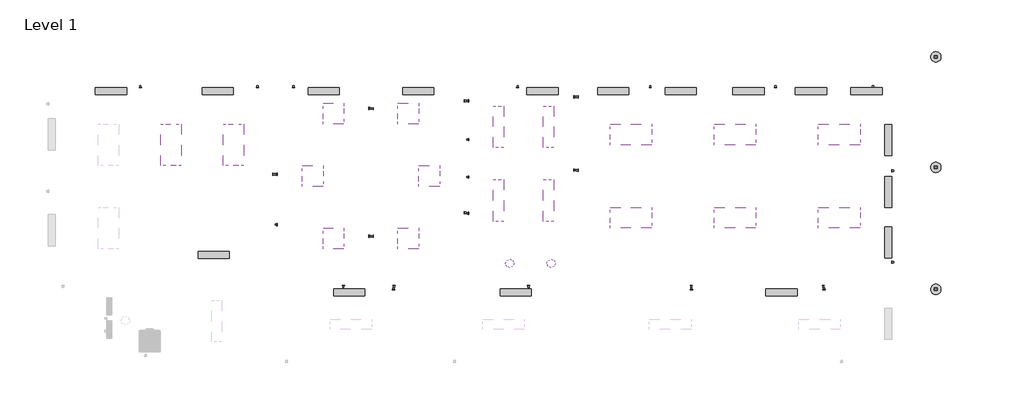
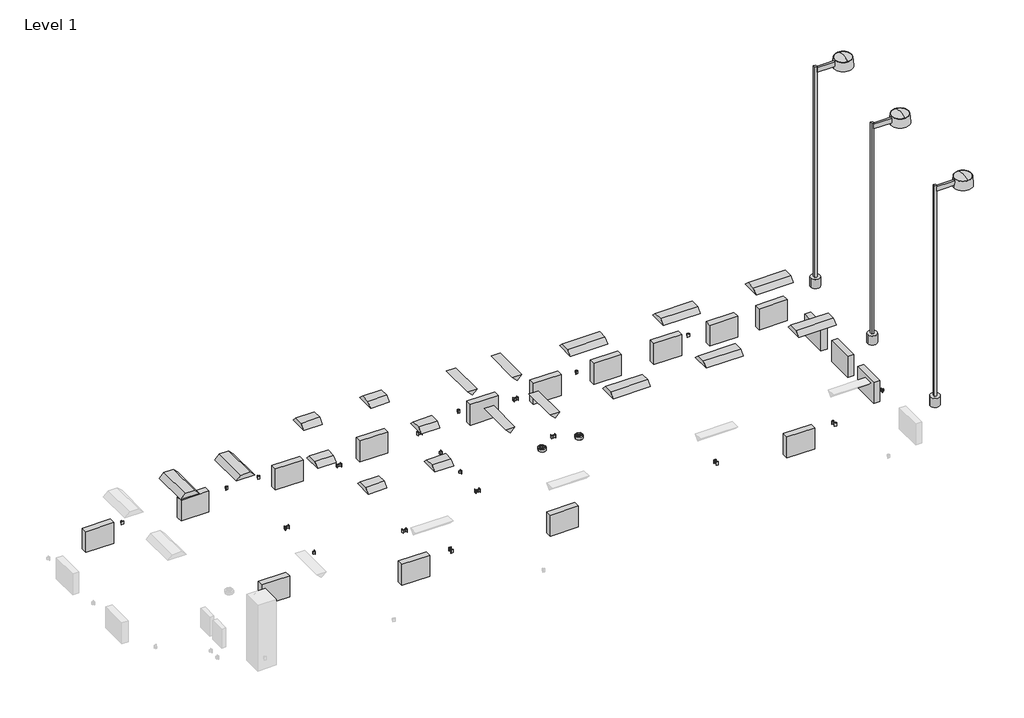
# One storey, part 2 of 2: 52 proxies, 23 light fixtures.
"""IFC4 building model written with IfcOpenShell, lengths in millimetres."""

from ifc_helpers import new_model, si_unit, origin, place, context, project, spatial, transform, mapped, element, save
from components import duplex_receptacle_standard_10251bba, heater_standard_f97a0de0, ceiling_light_flat_round_60w_277v_a3c1fe64, plain_recessed_lighting_fixture_1x4_277_73690371, plain_recessed_lighting_fixture_2x2_277_2107ce2d, plain_recessed_lighting_fixture_2x4_277_d3d5fc87, street_light_standard_400w_halogen_277v_63d2c179

model = new_model("IFC4")

# Units and contexts
model_context = context("Model", 3, world=origin())
ifc_project = project(units=[si_unit("LENGTHUNIT", "METRE", prefix="MILLI")], contexts=[model_context])

# Site, building, storey
site = spatial("IfcSite", under=ifc_project)
building = spatial("IfcBuilding", under=site)
storey = spatial("IfcBuildingStorey", under=building, Name="Level 1", Elevation=0.0)

# Proxies
placement = place(None, origin())
duplex_receptacle_standard_shape = duplex_receptacle_standard_10251bba(model_context)
element("IfcBuildingElementProxy", 1, Name="Duplex Receptacle : Standard", ObjectType="Duplex Receptacle : Standard", at=placement, inside=storey, context=model_context, shape_type="MappedRepresentation", body=[
    mapped(duplex_receptacle_standard_shape, transform((-35.6380103, 2648.1174507, 457.2), x_axis=(0.0, 1.0, 0.0), y_axis=(0.0, 0.0, 1.0), z_axis=(1.0, 0.0, 0.0))),
])
element("IfcBuildingElementProxy", 2, Name="Duplex Receptacle : Standard", ObjectType="Duplex Receptacle : Standard", at=placement, inside=storey, context=model_context, shape_type="MappedRepresentation", body=[
    mapped(duplex_receptacle_standard_shape, transform((-35.6380103, 3713.8918475, 457.2), x_axis=(0.0, 1.0, 0.0), y_axis=(0.0, 0.0, 1.0), z_axis=(1.0, 0.0, 0.0))),
])
element("IfcBuildingElementProxy", 3, Name="Duplex Receptacle : Standard", ObjectType="Duplex Receptacle : Standard", at=placement, inside=storey, context=model_context, shape_type="MappedRepresentation", body=[
    mapped(duplex_receptacle_standard_shape, transform((-35.6380103, 4811.7196097, 457.2), x_axis=(0.0, 1.0, 0.0), y_axis=(0.0, 0.0, 1.0), z_axis=(1.0, 0.0, 0.0))),
])
element("IfcBuildingElementProxy", 4, Name="Duplex Receptacle : Standard", ObjectType="Duplex Receptacle : Standard", at=placement, inside=storey, context=model_context, shape_type="MappedRepresentation", body=[
    mapped(duplex_receptacle_standard_shape, transform((-35.6380103, 5949.6140785, 457.2), x_axis=(0.0, 1.0, 0.0), y_axis=(0.0, 0.0, 1.0), z_axis=(1.0, 0.0, 0.0))),
])
element("IfcBuildingElementProxy", 5, Name="Duplex Receptacle : Standard", ObjectType="Duplex Receptacle : Standard", at=placement, inside=storey, context=model_context, shape_type="MappedRepresentation", body=[
    mapped(duplex_receptacle_standard_shape, transform((3054.9541807, 6058.3078836, 457.2), x_axis=(0.0, -1.0, 0.0), y_axis=(0.0, 0.0, 1.0), z_axis=(-1.0, 0.0, 0.0))),
])
element("IfcBuildingElementProxy", 6, Name="Duplex Receptacle : Standard", ObjectType="Duplex Receptacle : Standard", at=placement, inside=storey, context=model_context, shape_type="MappedRepresentation", body=[
    mapped(duplex_receptacle_standard_shape, transform((3054.9541807, 3918.7457486, 457.2), x_axis=(0.0, -1.0, 0.0), y_axis=(0.0, 0.0, 1.0), z_axis=(-1.0, 0.0, 0.0))),
])
element("IfcBuildingElementProxy", 7, Name="Duplex Receptacle : Standard", ObjectType="Duplex Receptacle : Standard", at=placement, inside=storey, context=model_context, shape_type="MappedRepresentation", body=[
    mapped(duplex_receptacle_standard_shape, transform((1404.1361978, 6330.7167452, 457.2), x_axis=(1.0, 0.0, 0.0), y_axis=(0.0, 0.0, 1.0), z_axis=(0.0, -1.0, 0.0))),
])
element("IfcBuildingElementProxy", 8, Name="Duplex Receptacle : Standard", ObjectType="Duplex Receptacle : Standard", at=placement, inside=storey, context=model_context, shape_type="MappedRepresentation", body=[
    mapped(duplex_receptacle_standard_shape, transform((-9637.0519321, 6330.7167452, 457.2), x_axis=(1.0, 0.0, 0.0), y_axis=(0.0, 0.0, 1.0), z_axis=(0.0, -1.0, 0.0))),
])
element("IfcBuildingElementProxy", 9, Name="Duplex Receptacle : Standard", ObjectType="Duplex Receptacle : Standard", at=placement, inside=storey, context=model_context, shape_type="MappedRepresentation", body=[
    mapped(duplex_receptacle_standard_shape, transform((-6212.0214597, 6330.7167452, 457.2), x_axis=(1.0, 0.0, 0.0), y_axis=(0.0, 0.0, 1.0), z_axis=(0.0, -1.0, 0.0))),
])
element("IfcBuildingElementProxy", 10, Name="Duplex Receptacle : Standard", ObjectType="Duplex Receptacle : Standard", at=placement, inside=storey, context=model_context, shape_type="MappedRepresentation", body=[
    mapped(duplex_receptacle_standard_shape, transform((-5761.7329716, 3793.1487614, 457.2), x_axis=(0.0, -1.0, 0.0), y_axis=(0.0, 0.0, 1.0), z_axis=(-1.0, 0.0, 0.0))),
])
element("IfcBuildingElementProxy", 11, Name="Duplex Receptacle : Standard", ObjectType="Duplex Receptacle : Standard", at=placement, inside=storey, context=model_context, shape_type="MappedRepresentation", body=[
    mapped(duplex_receptacle_standard_shape, transform((-3696.8781677, 539.3362982, 457.2), x_axis=(-1.0, 0.0, 0.0), y_axis=(0.0, 0.0, 1.0), z_axis=(0.0, 1.0, 0.0))),
])
element("IfcBuildingElementProxy", 12, Name="Duplex Receptacle : Standard", ObjectType="Duplex Receptacle : Standard", at=placement, inside=storey, context=model_context, shape_type="MappedRepresentation", body=[
    mapped(duplex_receptacle_standard_shape, transform((-2943.0314516, 1977.435622, 457.2), x_axis=(0.0, -1.0, 0.0), y_axis=(0.0, 0.0, 1.0), z_axis=(-1.0, 0.0, 0.0))),
])
element("IfcBuildingElementProxy", 13, Name="Duplex Receptacle : Standard", ObjectType="Duplex Receptacle : Standard", at=placement, inside=storey, context=model_context, shape_type="MappedRepresentation", body=[
    mapped(duplex_receptacle_standard_shape, transform((-2943.0314516, 5727.6793643, 457.2), x_axis=(0.0, -1.0, 0.0), y_axis=(0.0, 0.0, 1.0), z_axis=(-1.0, 0.0, 0.0))),
])
element("IfcBuildingElementProxy", 14, Name="Duplex Receptacle : Standard", ObjectType="Duplex Receptacle : Standard", at=placement, inside=storey, context=model_context, shape_type="MappedRepresentation", body=[
    mapped(duplex_receptacle_standard_shape, transform((-5155.3062897, 6330.7167452, 457.2), x_axis=(1.0, 0.0, 0.0), y_axis=(0.0, 0.0, 1.0), z_axis=(0.0, -1.0, 0.0))),
])
element("IfcBuildingElementProxy", 15, Name="Duplex Receptacle : Standard", ObjectType="Duplex Receptacle : Standard", at=placement, inside=storey, context=model_context, shape_type="MappedRepresentation", body=[
    mapped(duplex_receptacle_standard_shape, transform((-5637.9079716, 3796.4641038, 457.2), x_axis=(0.0, 1.0, 0.0), y_axis=(0.0, 0.0, 1.0), z_axis=(1.0, 0.0, 0.0))),
])
element("IfcBuildingElementProxy", 16, Name="Duplex Receptacle : Standard", ObjectType="Duplex Receptacle : Standard", at=placement, inside=storey, context=model_context, shape_type="MappedRepresentation", body=[
    mapped(duplex_receptacle_standard_shape, transform((-5637.9079716, 2322.0092992, 457.2), x_axis=(0.0, 1.0, 0.0), y_axis=(0.0, 0.0, 1.0), z_axis=(1.0, 0.0, 0.0))),
])
element("IfcBuildingElementProxy", 17, Name="Duplex Receptacle : Standard", ObjectType="Duplex Receptacle : Standard", at=placement, inside=storey, context=model_context, shape_type="MappedRepresentation", body=[
    mapped(duplex_receptacle_standard_shape, transform((-2819.2064516, 5717.2271799, 457.2), x_axis=(0.0, 1.0, 0.0), y_axis=(0.0, 0.0, 1.0), z_axis=(1.0, 0.0, 0.0))),
])
element("IfcBuildingElementProxy", 18, Name="Duplex Receptacle : Standard", ObjectType="Duplex Receptacle : Standard", at=placement, inside=storey, context=model_context, shape_type="MappedRepresentation", body=[
    mapped(duplex_receptacle_standard_shape, transform((-2819.2064516, 1974.996779, 457.2), x_axis=(0.0, 1.0, 0.0), y_axis=(0.0, 0.0, 1.0), z_axis=(1.0, 0.0, 0.0))),
])
element("IfcBuildingElementProxy", 19, Name="Duplex Receptacle : Standard", ObjectType="Duplex Receptacle : Standard", at=placement, inside=storey, context=model_context, shape_type="MappedRepresentation", body=[
    mapped(duplex_receptacle_standard_shape, transform((-2217.8940832, 539.3362982, 457.2), x_axis=(-1.0, 0.0, 0.0), y_axis=(0.0, 0.0, 1.0), z_axis=(0.0, 1.0, 0.0))),
])
element("IfcBuildingElementProxy", 20, Name="Duplex Receptacle : Standard", ObjectType="Duplex Receptacle : Standard", at=placement, inside=storey, context=model_context, shape_type="MappedRepresentation", body=[
    mapped(duplex_receptacle_standard_shape, transform((-159.4630103, 5949.6140785, 457.2), x_axis=(0.0, -1.0, 0.0), y_axis=(0.0, 0.0, 1.0), z_axis=(-1.0, 0.0, 0.0))),
])
element("IfcBuildingElementProxy", 21, Name="Duplex Receptacle : Standard", ObjectType="Duplex Receptacle : Standard", at=placement, inside=storey, context=model_context, shape_type="MappedRepresentation", body=[
    mapped(duplex_receptacle_standard_shape, transform((-159.4630103, 2664.1441333, 457.2), x_axis=(0.0, -1.0, 0.0), y_axis=(0.0, 0.0, 1.0), z_axis=(-1.0, 0.0, 0.0))),
])
element("IfcBuildingElementProxy", 22, Name="Duplex Receptacle : Standard", ObjectType="Duplex Receptacle : Standard", at=placement, inside=storey, context=model_context, shape_type="MappedRepresentation", body=[
    mapped(duplex_receptacle_standard_shape, transform((3178.7791807, 3910.7324072, 457.2), x_axis=(0.0, 1.0, 0.0), y_axis=(0.0, 0.0, 1.0), z_axis=(1.0, 0.0, 0.0))),
])
element("IfcBuildingElementProxy", 23, Name="Duplex Receptacle : Standard", ObjectType="Duplex Receptacle : Standard", at=placement, inside=storey, context=model_context, shape_type="MappedRepresentation", body=[
    mapped(duplex_receptacle_standard_shape, transform((3178.7791807, 6058.3078836, 457.2), x_axis=(0.0, 1.0, 0.0), y_axis=(0.0, 0.0, 1.0), z_axis=(1.0, 0.0, 0.0))),
])
element("IfcBuildingElementProxy", 24, Name="Duplex Receptacle : Standard", ObjectType="Duplex Receptacle : Standard", at=placement, inside=storey, context=model_context, shape_type="MappedRepresentation", body=[
    mapped(duplex_receptacle_standard_shape, transform((5282.5934014, 6330.7167452, 457.2), x_axis=(1.0, 0.0, 0.0), y_axis=(0.0, 0.0, 1.0), z_axis=(0.0, -1.0, 0.0))),
])
element("IfcBuildingElementProxy", 25, Name="Duplex Receptacle : Standard", ObjectType="Duplex Receptacle : Standard", at=placement, inside=storey, context=model_context, shape_type="MappedRepresentation", body=[
    mapped(duplex_receptacle_standard_shape, transform((8952.7037304, 6330.7167452, 457.2), x_axis=(1.0, 0.0, 0.0), y_axis=(0.0, 0.0, 1.0), z_axis=(0.0, -1.0, 0.0))),
])
element("IfcBuildingElementProxy", 26, Name="Duplex Receptacle : Standard", ObjectType="Duplex Receptacle : Standard", at=placement, inside=storey, context=model_context, shape_type="MappedRepresentation", body=[
    mapped(duplex_receptacle_standard_shape, transform((11805.4532437, 6330.7167452, 457.2), x_axis=(1.0, 0.0, 0.0), y_axis=(0.0, 0.0, 1.0), z_axis=(0.0, -1.0, 0.0))),
])
element("IfcBuildingElementProxy", 27, Name="Duplex Receptacle : Standard", ObjectType="Duplex Receptacle : Standard", at=placement, inside=storey, context=model_context, shape_type="MappedRepresentation", body=[
    mapped(duplex_receptacle_standard_shape, transform((12355.5534774, 3898.1986981, 457.2), x_axis=(0.0, -1.0, 0.0), y_axis=(0.0, 0.0, 1.0), z_axis=(-1.0, 0.0, 0.0))),
])
element("IfcBuildingElementProxy", 28, Name="Duplex Receptacle : Standard", ObjectType="Duplex Receptacle : Standard", at=placement, inside=storey, context=model_context, shape_type="MappedRepresentation", body=[
    mapped(duplex_receptacle_standard_shape, transform((12355.5534774, 1221.742694, 457.2), x_axis=(0.0, -1.0, 0.0), y_axis=(0.0, 0.0, 1.0), z_axis=(-1.0, 0.0, 0.0))),
])
element("IfcBuildingElementProxy", 29, Name="Duplex Receptacle : Standard", ObjectType="Duplex Receptacle : Standard", at=placement, inside=storey, context=model_context, shape_type="MappedRepresentation", body=[
    mapped(duplex_receptacle_standard_shape, transform((10347.0251217, 539.3362982, 457.2), x_axis=(-1.0, 0.0, 0.0), y_axis=(0.0, 0.0, 1.0), z_axis=(0.0, 1.0, 0.0))),
])
element("IfcBuildingElementProxy", 30, Name="Duplex Receptacle : Standard", ObjectType="Duplex Receptacle : Standard", at=placement, inside=storey, context=model_context, shape_type="MappedRepresentation", body=[
    mapped(duplex_receptacle_standard_shape, transform((6484.5946008, 539.3362982, 457.2), x_axis=(-1.0, 0.0, 0.0), y_axis=(0.0, 0.0, 1.0), z_axis=(0.0, 1.0, 0.0))),
])
element("IfcBuildingElementProxy", 31, Name="Duplex Receptacle : Standard", ObjectType="Duplex Receptacle : Standard", at=placement, inside=storey, context=model_context, shape_type="MappedRepresentation", body=[
    mapped(duplex_receptacle_standard_shape, transform((10364.3439331, 415.5112982, 457.2), x_axis=(1.0, 0.0, 0.0), y_axis=(0.0, 0.0, 1.0), z_axis=(0.0, -1.0, 0.0))),
])
element("IfcBuildingElementProxy", 32, Name="Duplex Receptacle : Standard", ObjectType="Duplex Receptacle : Standard", at=placement, inside=storey, context=model_context, shape_type="MappedRepresentation", body=[
    mapped(duplex_receptacle_standard_shape, transform((6485.6062626, 415.5112982, 457.2), x_axis=(1.0, 0.0, 0.0), y_axis=(0.0, 0.0, 1.0), z_axis=(0.0, -1.0, 0.0))),
])
element("IfcBuildingElementProxy", 33, Name="Duplex Receptacle : Standard", ObjectType="Duplex Receptacle : Standard", at=placement, inside=storey, context=model_context, shape_type="MappedRepresentation", body=[
    mapped(duplex_receptacle_standard_shape, transform((1727.2641477, 415.5112982, 457.2), x_axis=(1.0, 0.0, 0.0), y_axis=(0.0, 0.0, 1.0), z_axis=(0.0, -1.0, 0.0))),
])
element("IfcBuildingElementProxy", 34, Name="Duplex Receptacle : Standard", ObjectType="Duplex Receptacle : Standard", at=placement, inside=storey, context=model_context, shape_type="MappedRepresentation", body=[
    mapped(duplex_receptacle_standard_shape, transform((1724.669851, 539.3362982, 457.2), x_axis=(-1.0, 0.0, 0.0), y_axis=(0.0, 0.0, 1.0), z_axis=(0.0, 1.0, 0.0))),
])
element("IfcBuildingElementProxy", 35, Name="Duplex Receptacle : Standard", ObjectType="Duplex Receptacle : Standard", at=placement, inside=storey, context=model_context, shape_type="MappedRepresentation", body=[
    mapped(duplex_receptacle_standard_shape, transform((-2225.6570301, 415.5112982, 457.2), x_axis=(1.0, 0.0, 0.0), y_axis=(0.0, 0.0, 1.0), z_axis=(0.0, -1.0, 0.0))),
])
heater_standard_shape = heater_standard_f97a0de0(model_context)
element("IfcBuildingElementProxy", 36, Name="Heater : Standard", ObjectType="Heater : Standard", at=placement, inside=storey, context=model_context, shape_type="MappedRepresentation", body=[
    mapped(heater_standard_shape, transform((-10493.6657489, 6330.7167452, 0.0), x_axis=(1.0, 0.0, 0.0), y_axis=(0.0, 1.0, 0.0), z_axis=(0.0, 0.0, 1.0))),
])
element("IfcBuildingElementProxy", 37, Name="Heater : Standard", ObjectType="Heater : Standard", at=placement, inside=storey, context=model_context, shape_type="MappedRepresentation", body=[
    mapped(heater_standard_shape, transform((-7369.4657489, 6330.7167452, 0.0), x_axis=(1.0, 0.0, 0.0), y_axis=(0.0, 1.0, 0.0), z_axis=(0.0, 0.0, 1.0))),
])
element("IfcBuildingElementProxy", 38, Name="Heater : Standard", ObjectType="Heater : Standard", at=placement, inside=storey, context=model_context, shape_type="MappedRepresentation", body=[
    mapped(heater_standard_shape, transform((-4270.6657489, 6330.7167452, 0.0), x_axis=(1.0, 0.0, 0.0), y_axis=(0.0, 1.0, 0.0), z_axis=(0.0, 0.0, 1.0))),
])
element("IfcBuildingElementProxy", 39, Name="Heater : Standard", ObjectType="Heater : Standard", at=placement, inside=storey, context=model_context, shape_type="MappedRepresentation", body=[
    mapped(heater_standard_shape, transform((-1502.0657489, 6330.7167452, 0.0), x_axis=(1.0, 0.0, 0.0), y_axis=(0.0, 1.0, 0.0), z_axis=(0.0, 0.0, 1.0))),
])
element("IfcBuildingElementProxy", 40, Name="Heater : Standard", ObjectType="Heater : Standard", at=placement, inside=storey, context=model_context, shape_type="MappedRepresentation", body=[
    mapped(heater_standard_shape, transform((2130.1342511, 6330.7167452, 0.0), x_axis=(1.0, 0.0, 0.0), y_axis=(0.0, 1.0, 0.0), z_axis=(0.0, 0.0, 1.0))),
])
element("IfcBuildingElementProxy", 41, Name="Heater : Standard", ObjectType="Heater : Standard", at=placement, inside=storey, context=model_context, shape_type="MappedRepresentation", body=[
    mapped(heater_standard_shape, transform((4197.6029721, 6330.7167452, 0.0), x_axis=(1.0, 0.0, 0.0), y_axis=(0.0, 1.0, 0.0), z_axis=(0.0, 0.0, 1.0))),
])
element("IfcBuildingElementProxy", 42, Name="Heater : Standard", ObjectType="Heater : Standard", at=placement, inside=storey, context=model_context, shape_type="MappedRepresentation", body=[
    mapped(heater_standard_shape, transform((6178.8029721, 6330.7167452, 0.0), x_axis=(1.0, 0.0, 0.0), y_axis=(0.0, 1.0, 0.0), z_axis=(0.0, 0.0, 1.0))),
])
element("IfcBuildingElementProxy", 43, Name="Heater : Standard", ObjectType="Heater : Standard", at=placement, inside=storey, context=model_context, shape_type="MappedRepresentation", body=[
    mapped(heater_standard_shape, transform((8160.0029721, 6330.7167452, 0.0), x_axis=(1.0, 0.0, 0.0), y_axis=(0.0, 1.0, 0.0), z_axis=(0.0, 0.0, 1.0))),
])
element("IfcBuildingElementProxy", 44, Name="Heater : Standard", ObjectType="Heater : Standard", at=placement, inside=storey, context=model_context, shape_type="MappedRepresentation", body=[
    mapped(heater_standard_shape, transform((9988.8029721, 6330.7167452, 0.0), x_axis=(1.0, 0.0, 0.0), y_axis=(0.0, 1.0, 0.0), z_axis=(0.0, 0.0, 1.0))),
])
element("IfcBuildingElementProxy", 45, Name="Heater : Standard", ObjectType="Heater : Standard", at=placement, inside=storey, context=model_context, shape_type="MappedRepresentation", body=[
    mapped(heater_standard_shape, transform((11614.4029721, 6330.7167452, 0.0), x_axis=(1.0, 0.0, 0.0), y_axis=(0.0, 1.0, 0.0), z_axis=(0.0, 0.0, 1.0))),
])
element("IfcBuildingElementProxy", 46, Name="Heater : Standard", ObjectType="Heater : Standard", at=placement, inside=storey, context=model_context, shape_type="MappedRepresentation", body=[
    mapped(heater_standard_shape, transform((12355.5534774, 4799.6351917, 0.0), x_axis=(0.0, -1.0, 0.0), y_axis=(1.0, 0.0, 0.0), z_axis=(0.0, 0.0, 1.0))),
])
element("IfcBuildingElementProxy", 47, Name="Heater : Standard", ObjectType="Heater : Standard", at=placement, inside=storey, context=model_context, shape_type="MappedRepresentation", body=[
    mapped(heater_standard_shape, transform((12355.5534774, 3277.1048672, 0.0), x_axis=(0.0, -1.0, 0.0), y_axis=(1.0, 0.0, 0.0), z_axis=(0.0, 0.0, 1.0))),
])
element("IfcBuildingElementProxy", 48, Name="Heater : Standard", ObjectType="Heater : Standard", at=placement, inside=storey, context=model_context, shape_type="MappedRepresentation", body=[
    mapped(heater_standard_shape, transform((12355.5534774, 1797.1628035, 0.0), x_axis=(0.0, -1.0, 0.0), y_axis=(1.0, 0.0, 0.0), z_axis=(0.0, 0.0, 1.0))),
])
element("IfcBuildingElementProxy", 49, Name="Heater : Standard", ObjectType="Heater : Standard", at=placement, inside=storey, context=model_context, shape_type="MappedRepresentation", body=[
    mapped(heater_standard_shape, transform((9122.3791807, 431.3862982, 0.0), x_axis=(1.0, 0.0, 0.0), y_axis=(0.0, 1.0, 0.0), z_axis=(0.0, 0.0, 1.0))),
])
element("IfcBuildingElementProxy", 50, Name="Heater : Standard", ObjectType="Heater : Standard", at=placement, inside=storey, context=model_context, shape_type="MappedRepresentation", body=[
    mapped(heater_standard_shape, transform((1349.9791807, 431.3862982, 0.0), x_axis=(1.0, 0.0, 0.0), y_axis=(0.0, 1.0, 0.0), z_axis=(0.0, 0.0, 1.0))),
])
element("IfcBuildingElementProxy", 51, Name="Heater : Standard", ObjectType="Heater : Standard", at=placement, inside=storey, context=model_context, shape_type="MappedRepresentation", body=[
    mapped(heater_standard_shape, transform((-3526.8208193, 431.3862982, 0.0), x_axis=(1.0, 0.0, 0.0), y_axis=(0.0, 1.0, 0.0), z_axis=(0.0, 0.0, 1.0))),
])
element("IfcBuildingElementProxy", 52, Name="Heater : Standard", ObjectType="Heater : Standard", at=placement, inside=storey, context=model_context, shape_type="MappedRepresentation", body=[
    mapped(heater_standard_shape, transform((-7489.2208193, 1538.3483443, 0.0), x_axis=(1.0, 0.0, 0.0), y_axis=(0.0, 1.0, 0.0), z_axis=(0.0, 0.0, 1.0))),
])

# Light fixtures
ceiling_light_flat_round_60w_277v_shape = ceiling_light_flat_round_60w_277v_a3c1fe64(model_context)
element("IfcLightFixture", 53, ObjectType="Ceiling Light - Flat Round : 60W - 277V", at=placement, inside=storey, context=model_context, shape_type="MappedRepresentation", body=[
    mapped(ceiling_light_flat_round_60w_277v_shape, transform((2383.8661295, 1183.5273163, 2438.4), x_axis=(1.0, 0.0, 0.0), y_axis=(0.0, -1.0, 0.0), z_axis=(0.0, 0.0, -1.0))),
])
element("IfcLightFixture", 54, ObjectType="Ceiling Light - Flat Round : 60W - 277V", at=placement, inside=storey, context=model_context, shape_type="MappedRepresentation", body=[
    mapped(ceiling_light_flat_round_60w_277v_shape, transform((1173.2843647, 1183.5273163, 2438.4), x_axis=(1.0, 0.0, 0.0), y_axis=(0.0, -1.0, 0.0), z_axis=(0.0, 0.0, -1.0))),
])
plain_recessed_lighting_fixture_1x4_277_shape = plain_recessed_lighting_fixture_1x4_277_73690371(model_context)
element("IfcLightFixture", 55, ObjectType="Plain Recessed Lighting Fixture : 1x4 - 277", at=placement, inside=storey, context=model_context, shape_type="MappedRepresentation", body=[
    mapped(plain_recessed_lighting_fixture_1x4_277_shape, transform((690.4888321, 4574.6175062, 2438.4), x_axis=(0.0, 1.0, 0.0), y_axis=(-1.0, 0.0, 0.0), z_axis=(0.0, 0.0, 1.0))),
])
element("IfcLightFixture", 56, ObjectType="Plain Recessed Lighting Fixture : 1x4 - 277", at=placement, inside=storey, context=model_context, shape_type="MappedRepresentation", body=[
    mapped(plain_recessed_lighting_fixture_1x4_277_shape, transform((2158.6173709, 4574.6175062, 2438.4), x_axis=(0.0, 1.0, 0.0), y_axis=(-1.0, 0.0, 0.0), z_axis=(0.0, 0.0, 1.0))),
])
element("IfcLightFixture", 57, ObjectType="Plain Recessed Lighting Fixture : 1x4 - 277", at=placement, inside=storey, context=model_context, shape_type="MappedRepresentation", body=[
    mapped(plain_recessed_lighting_fixture_1x4_277_shape, transform((2158.6173709, 2416.9134415, 2438.4), x_axis=(0.0, 1.0, 0.0), y_axis=(-1.0, 0.0, 0.0), z_axis=(0.0, 0.0, 1.0))),
])
element("IfcLightFixture", 58, ObjectType="Plain Recessed Lighting Fixture : 1x4 - 277", at=placement, inside=storey, context=model_context, shape_type="MappedRepresentation", body=[
    mapped(plain_recessed_lighting_fixture_1x4_277_shape, transform((690.4888321, 2416.9134415, 2438.4), x_axis=(0.0, 1.0, 0.0), y_axis=(-1.0, 0.0, 0.0), z_axis=(0.0, 0.0, 1.0))),
])
plain_recessed_lighting_fixture_2x2_277_shape = plain_recessed_lighting_fixture_2x2_277_2107ce2d(model_context)
element("IfcLightFixture", 59, ObjectType="Plain Recessed Lighting Fixture : 2x2 - 277", at=placement, inside=storey, context=model_context, shape_type="MappedRepresentation", body=[
    mapped(plain_recessed_lighting_fixture_2x2_277_shape, transform((-4290.4697116, 5263.8265217, 2438.4), x_axis=(1.0, 0.0, 0.0), y_axis=(0.0, -1.0, 0.0), z_axis=(0.0, 0.0, -1.0))),
])
element("IfcLightFixture", 60, ObjectType="Plain Recessed Lighting Fixture : 2x2 - 277", at=placement, inside=storey, context=model_context, shape_type="MappedRepresentation", body=[
    mapped(plain_recessed_lighting_fixture_2x2_277_shape, transform((-4900.0697116, 3435.0265217, 2438.4), x_axis=(1.0, 0.0, 0.0), y_axis=(0.0, -1.0, 0.0), z_axis=(0.0, 0.0, -1.0))),
])
element("IfcLightFixture", 61, ObjectType="Plain Recessed Lighting Fixture : 2x2 - 277", at=placement, inside=storey, context=model_context, shape_type="MappedRepresentation", body=[
    mapped(plain_recessed_lighting_fixture_2x2_277_shape, transform((-4290.4697116, 1606.2265217, 2438.4), x_axis=(1.0, 0.0, 0.0), y_axis=(0.0, -1.0, 0.0), z_axis=(0.0, 0.0, -1.0))),
])
element("IfcLightFixture", 62, ObjectType="Plain Recessed Lighting Fixture : 2x2 - 277", at=placement, inside=storey, context=model_context, shape_type="MappedRepresentation", body=[
    mapped(plain_recessed_lighting_fixture_2x2_277_shape, transform((-2098.9347309, 5263.8265217, 2438.4), x_axis=(1.0, 0.0, 0.0), y_axis=(0.0, -1.0, 0.0), z_axis=(0.0, 0.0, -1.0))),
])
element("IfcLightFixture", 63, ObjectType="Plain Recessed Lighting Fixture : 2x2 - 277", at=placement, inside=storey, context=model_context, shape_type="MappedRepresentation", body=[
    mapped(plain_recessed_lighting_fixture_2x2_277_shape, transform((-1489.3347309, 3435.0265217, 2438.4), x_axis=(1.0, 0.0, 0.0), y_axis=(0.0, -1.0, 0.0), z_axis=(0.0, 0.0, -1.0))),
])
element("IfcLightFixture", 64, ObjectType="Plain Recessed Lighting Fixture : 2x2 - 277", at=placement, inside=storey, context=model_context, shape_type="MappedRepresentation", body=[
    mapped(plain_recessed_lighting_fixture_2x2_277_shape, transform((-2098.9347309, 1606.2265217, 2438.4), x_axis=(1.0, 0.0, 0.0), y_axis=(0.0, -1.0, 0.0), z_axis=(0.0, 0.0, -1.0))),
])
plain_recessed_lighting_fixture_2x4_277_shape = plain_recessed_lighting_fixture_2x4_277_d3d5fc87(model_context)
element("IfcLightFixture", 65, ObjectType="Plain Recessed Lighting Fixture : 2x4 - 277", at=placement, inside=storey, context=model_context, shape_type="MappedRepresentation", body=[
    mapped(plain_recessed_lighting_fixture_2x4_277_shape, transform((4109.566329, 4654.2265217, 2438.4), x_axis=(1.0, 0.0, 0.0), y_axis=(0.0, -1.0, 0.0), z_axis=(0.0, 0.0, -1.0))),
])
element("IfcLightFixture", 66, ObjectType="Plain Recessed Lighting Fixture : 2x4 - 277", at=placement, inside=storey, context=model_context, shape_type="MappedRepresentation", body=[
    mapped(plain_recessed_lighting_fixture_2x4_277_shape, transform((7157.566329, 4654.2265217, 2438.4), x_axis=(1.0, 0.0, 0.0), y_axis=(0.0, -1.0, 0.0), z_axis=(0.0, 0.0, -1.0))),
])
element("IfcLightFixture", 67, ObjectType="Plain Recessed Lighting Fixture : 2x4 - 277", at=placement, inside=storey, context=model_context, shape_type="MappedRepresentation", body=[
    mapped(plain_recessed_lighting_fixture_2x4_277_shape, transform((10205.566329, 4654.2265217, 2438.4), x_axis=(1.0, 0.0, 0.0), y_axis=(0.0, -1.0, 0.0), z_axis=(0.0, 0.0, -1.0))),
])
element("IfcLightFixture", 68, ObjectType="Plain Recessed Lighting Fixture : 2x4 - 277", at=placement, inside=storey, context=model_context, shape_type="MappedRepresentation", body=[
    mapped(plain_recessed_lighting_fixture_2x4_277_shape, transform((4109.566329, 2215.8265217, 2438.4), x_axis=(1.0, 0.0, 0.0), y_axis=(0.0, -1.0, 0.0), z_axis=(0.0, 0.0, -1.0))),
])
element("IfcLightFixture", 69, ObjectType="Plain Recessed Lighting Fixture : 2x4 - 277", at=placement, inside=storey, context=model_context, shape_type="MappedRepresentation", body=[
    mapped(plain_recessed_lighting_fixture_2x4_277_shape, transform((7157.566329, 2215.8265217, 2438.4), x_axis=(1.0, 0.0, 0.0), y_axis=(0.0, -1.0, 0.0), z_axis=(0.0, 0.0, -1.0))),
])
element("IfcLightFixture", 70, ObjectType="Plain Recessed Lighting Fixture : 2x4 - 277", at=placement, inside=storey, context=model_context, shape_type="MappedRepresentation", body=[
    mapped(plain_recessed_lighting_fixture_2x4_277_shape, transform((10205.566329, 2215.8265217, 2438.4), x_axis=(1.0, 0.0, 0.0), y_axis=(0.0, -1.0, 0.0), z_axis=(0.0, 0.0, -1.0))),
])
element("IfcLightFixture", 71, ObjectType="Plain Recessed Lighting Fixture : 2x4 - 277", at=placement, inside=storey, context=model_context, shape_type="MappedRepresentation", body=[
    mapped(plain_recessed_lighting_fixture_2x4_277_shape, transform((-7215.5147471, 5263.8265217, 2438.4), x_axis=(0.0, -1.0, 0.0), y_axis=(-1.0, 0.0, 0.0), z_axis=(0.0, 0.0, -1.0))),
])
element("IfcLightFixture", 72, ObjectType="Plain Recessed Lighting Fixture : 2x4 - 277", at=placement, inside=storey, context=model_context, shape_type="MappedRepresentation", body=[
    mapped(plain_recessed_lighting_fixture_2x4_277_shape, transform((-9044.3147471, 5263.8265217, 2438.4), x_axis=(0.0, -1.0, 0.0), y_axis=(-1.0, 0.0, 0.0), z_axis=(0.0, 0.0, -1.0))),
])
street_light_standard_400w_halogen_277v_shape = street_light_standard_400w_halogen_277v_63d2c179(model_context)
element("IfcLightFixture", 73, ObjectType="Street Light - Standard : 400W Halogen - 277V", at=placement, inside=storey, context=model_context, shape_type="MappedRepresentation", body=[
    mapped(street_light_standard_400w_halogen_277v_shape, transform((13638.4206878, 425.8506431, 0.0), x_axis=(-1.0, 0.0, 0.0), y_axis=(0.0, -1.0, 0.0), z_axis=(0.0, 0.0, 1.0))),
])
element("IfcLightFixture", 74, ObjectType="Street Light - Standard : 400W Halogen - 277V", at=placement, inside=storey, context=model_context, shape_type="MappedRepresentation", body=[
    mapped(street_light_standard_400w_halogen_277v_shape, transform((13638.4206878, 3998.1498485, 0.0), x_axis=(-1.0, 0.0, 0.0), y_axis=(0.0, -1.0, 0.0), z_axis=(0.0, 0.0, 1.0))),
])
element("IfcLightFixture", 75, ObjectType="Street Light - Standard : 400W Halogen - 277V", at=placement, inside=storey, context=model_context, shape_type="MappedRepresentation", body=[
    mapped(street_light_standard_400w_halogen_277v_shape, transform((13638.4206878, 7233.6809624, 0.0), x_axis=(-1.0, 0.0, 0.0), y_axis=(0.0, -1.0, 0.0), z_axis=(0.0, 0.0, 1.0))),
])

save(model, "model.ifc")
